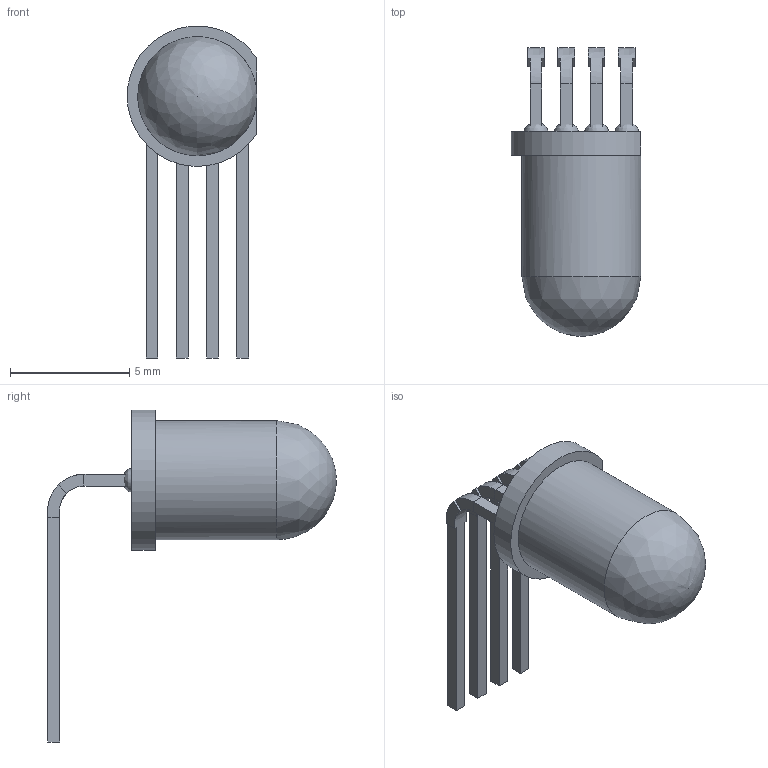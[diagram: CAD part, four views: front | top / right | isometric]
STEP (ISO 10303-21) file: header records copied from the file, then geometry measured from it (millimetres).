
FILE_DESCRIPTION(/* description */ (''),/* implementation_level */ '2;1');
FILE_NAME(/* name */ 'LE7AD6~1',/* time_stamp */ '2022-11-08T16:31:11+01:00',/* author */ (''),/* organization */ (''),/* preprocessor_version */ 'ST-DEVELOPER v16.5',/* originating_system */ '',/* authorisation */ '');
FILE_SCHEMA (('AUTOMOTIVE_DESIGN'));
Length unit declared in the file: millimetre
Products named in the file (1): Document
Bounding box: 5.45 x 12.12 x 13.95 mm (x, y, z)
Volume: 160.1 mm3; surface area: 299.5 mm2
Topology: 1 solids, 6 shells, 80 faces, 205 edges, 131 vertices
Faces by surface type: plane 48, bspline 29, cylinder 3
Full cylindrical faces by diameter (mm): 5 x1
Entity records: 4889 total; most frequent: CARTESIAN_POINT 3480, ORIENTED_EDGE 383, EDGE_CURVE 200, B_SPLINE_CURVE_WITH_KNOTS 179, VERTEX_POINT 131, EDGE_LOOP 84, ADVANCED_FACE 80, FACE_OUTER_BOUND 80
